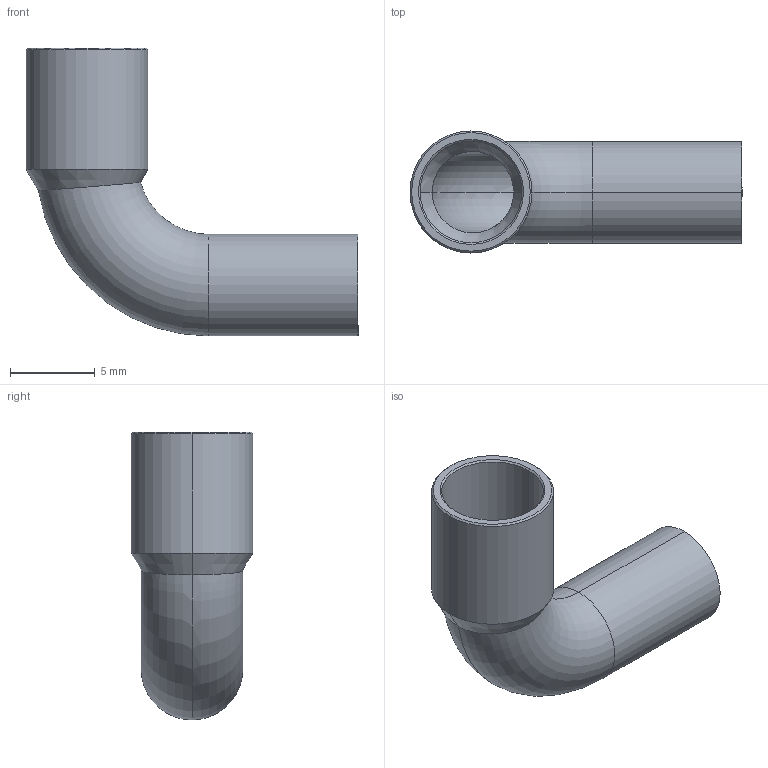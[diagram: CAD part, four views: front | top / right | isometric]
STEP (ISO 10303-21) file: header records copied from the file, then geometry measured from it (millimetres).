
FILE_DESCRIPTION((''),'2;1');
FILE_NAME('P:\Bouwmaten\z-maattekeningen 3D\5000\5001a\15001a6.stp','2005-10-04T14:06:34',('Kris'),(''),'Autodesk Inventor 8','Autodesk Inventor 8','');
FILE_SCHEMA(('AUTOMOTIVE_DESIGN { 1 0 10303 214 1 1 1 1 }'));
Length unit declared in the file: millimetre
Products named in the file (1): 15001a6
Bounding box: 19.6 x 7.2 x 17 mm (x, y, z)
Volume: 292.6 mm3; surface area: 996.3 mm2
Topology: 1 solids, 1 shells, 22 faces, 46 edges, 26 vertices
Faces by surface type: cone 8, cylinder 8, torus 4, plane 2
Entity records: 679 total; most frequent: CARTESIAN_POINT 171, DIRECTION 114, ORIENTED_EDGE 92, AXIS2_PLACEMENT_3D 49, EDGE_CURVE 46, VERTEX_POINT 26, CIRCLE 26, EDGE_LOOP 24
